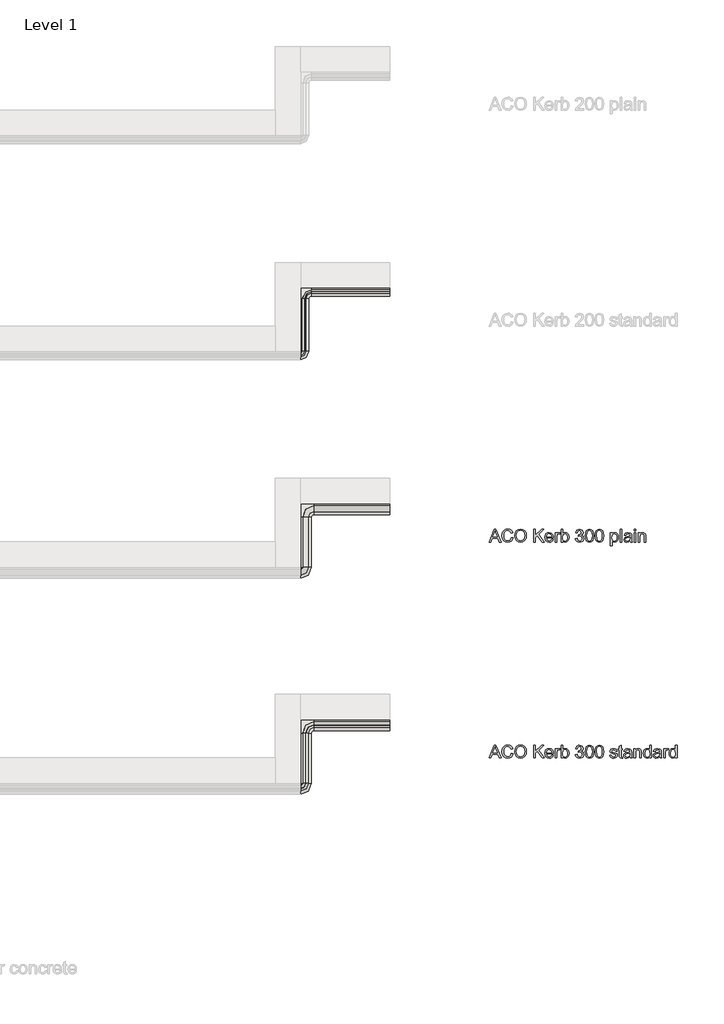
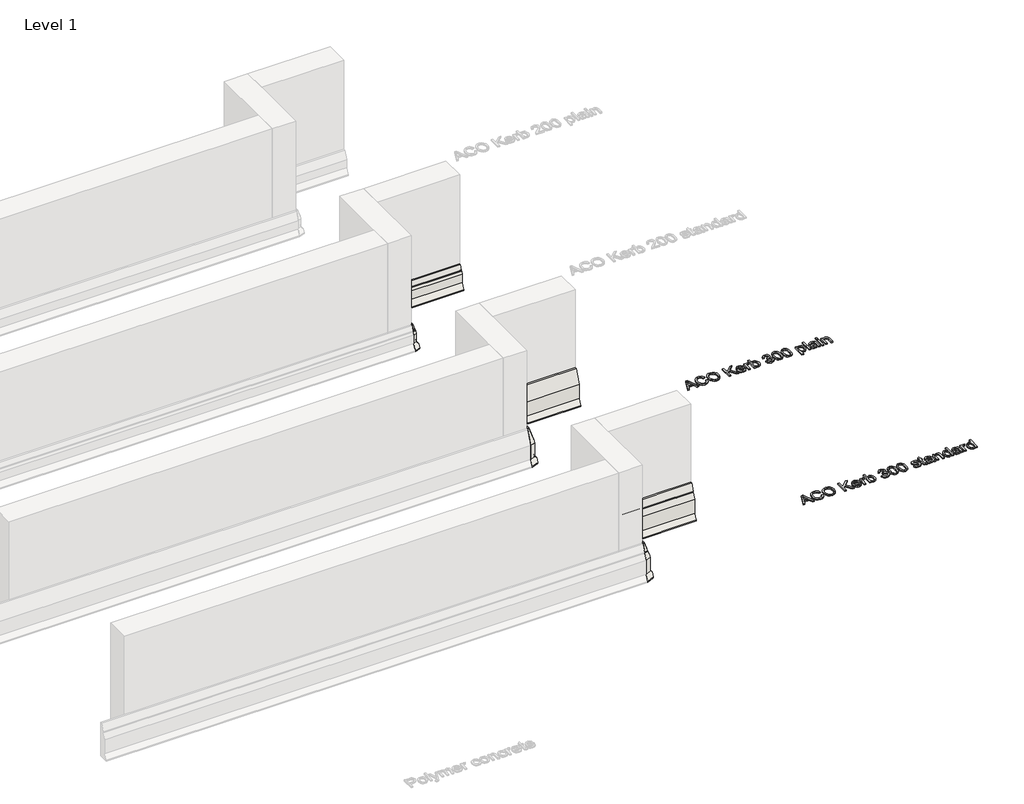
# One storey, part 2 of 4: 9 walls, 2 proxies.
"""IFC4 building model written with IfcOpenShell, lengths in millimetres."""

from ifc_helpers import new_model, si_unit, origin, origin_with_axes, place, context, project, spatial, polyline, outline, extrude, transform, mapped, element, save
from components import wall_ba41f0f9, wall_e165e4ae, wall_a8813c9a, wall_1ed60814, wall_682b4a6c, wall_ed18798e, wall_29dfddbd, wall_fa01e486, wall_d662d532

model = new_model("IFC4")

# Units and contexts
model_context = context("Model", 3, world=origin())
ifc_project = project(units=[si_unit("LENGTHUNIT", "METRE", prefix="MILLI")], contexts=[model_context])

# Site, building, storey
site = spatial("IfcSite", under=ifc_project)
building = spatial("IfcBuilding", under=site)
storey = spatial("IfcBuildingStorey", under=building, Name="Level 1", Elevation=0.0)

# Proxies
placement = place(None, origin())
element("IfcBuildingElementProxy", 1, Name="100mm ACO", ObjectType="100mm ACO", at=placement, inside=storey, context=model_context, shape_type="SweptSolid", body=[
    extrude(outline(polyline([(4878.14858, -11000.0), (4864.3464967, -11000.0), (4852.36733, -10970.3703704), (4809.9194133, -10970.3703704), (4798.4032096, -11000.0), (4784.6300615, -11000.0), (4823.4900152, -10900.0), (4837.6682559, -10900.0), (4878.14858, -11000.0)]), holes=[polyline([(4847.8534411, -10959.2592593), (4833.4292513, -10922.5983796), (4830.4633948, -10910.9375), (4825.80483, -10929.5138889), (4814.2596911, -10959.2592593), (4847.8534411, -10959.2592593)])]), origin_with_axes(), (0.0, 0.0, 1.0), 10.0),
    extrude(outline(polyline([(4972.1300615, -10968.1712963), (4966.216433, -10982.9969618), (4957.0982328, -10993.5040509), (4945.3107617, -10999.7649016), (4931.3893208, -11001.8518519), (4910.4836495, -10997.9962384), (4896.1462652, -10986.4293981), (4887.8563346, -10969.4372106), (4885.0930245, -10949.3055556), (4888.3373821, -10927.9188368), (4898.070455, -10911.7332176), (4912.9033543, -10901.5444155), (4931.4471911, -10898.1481481), (4944.7609932, -10899.9602141), (4955.9986958, -10905.396412), (4964.6684006, -10914.3265336), (4970.2782096, -10926.6203704), (4957.3152467, -10929.6296296), (4947.4628161, -10914.3663194), (4930.955293, -10909.2592593), (4916.7336495, -10911.968316), (4906.4182559, -10920.0954861), (4900.1465545, -10932.7799479), (4898.0559874, -10949.1608796), (4900.2695291, -10967.5238715), (4906.9101541, -10980.4832176), (4917.1098069, -10988.17636), (4930.0004319, -10990.7407407), (4940.5690083, -10989.1239873), (4948.9529782, -10984.2737269), (4955.1523416, -10976.1754919), (4959.1670985, -10964.8148148), (4972.1300615, -10968.1712963)])), origin_with_axes(), (0.0, 0.0, 1.0), 10.0),
    extrude(outline(polyline([(5031.4761263, -10898.1481481), (5049.9657096, -10901.7216435), (5064.7515893, -10912.4421296), (5074.4521101, -10929.0147569), (5077.685617, -10950.1446759), (5074.4340256, -10971.1841725), (5064.6792513, -10987.6591435), (5049.8752872, -10998.3036748), (5031.4761263, -11001.8518519), (5012.6031518, -10998.1734664), (4997.8245059, -10987.1383102), (4988.2758948, -10970.808015), (4985.0930245, -10951.244213), (4988.3192976, -10929.1630498), (4997.998117, -10912.3408565), (5012.8201657, -10901.6963252), (5031.4761263, -10898.1481481)]), holes=[polyline([(5031.3603856, -10990.7407407), (5044.8007791, -10988.0570023), (5055.4344596, -10980.005787), (5062.3716703, -10967.1730324), (5064.7226541, -10950.1446759), (5062.3680534, -10932.7365451), (5055.3042513, -10919.8640046), (5044.6741877, -10911.9104456), (5031.6208022, -10909.2592593), (5018.2744481, -10911.8561921), (5007.517793, -10919.6469907), (5000.4214388, -10932.8052662), (4998.0559874, -10951.5046296), (5000.3708022, -10967.3864294), (5007.3152467, -10979.9045139), (5017.956161, -10988.031684), (5031.3603856, -10990.7407407)])]), origin_with_axes(), (0.0, 0.0, 1.0), 10.0),
    extrude(outline(polyline([(5217.0374689, -11000.0), (5201.4992745, -11000.0), (5164.5779782, -10948.8136574), (5148.0559874, -10964.8148148), (5148.0559874, -11000.0), (5135.0930245, -11000.0), (5135.0930245, -10900.0), (5148.0559874, -10900.0), (5148.0559874, -10947.8009259), (5197.4194133, -10900.0), (5215.0120059, -10900.0), (5173.7504319, -10939.9305556), (5217.0374689, -11000.0)])), origin_with_axes(), (0.0, 0.0, 1.0), 10.0),
    extrude(outline(polyline([(5288.7967282, -10966.6666667), (5235.0930245, -10966.6666667), (5237.1655071, -10977.7922454), (5241.8783254, -10985.9375), (5248.6600094, -10990.9288194), (5256.9390893, -10992.5925926), (5268.6144365, -10988.9033565), (5275.8337652, -10977.7777778), (5288.7967282, -10979.2824074), (5284.4202814, -10988.9033565), (5277.4830708, -10996.0069444), (5268.2382791, -11000.390625), (5256.9390893, -11001.8518519), (5242.352139, -10999.3453414), (5231.345918, -10991.8258102), (5224.4340256, -10979.9660012), (5222.1300615, -10964.4386574), (5224.350837, -10948.900463), (5231.0131633, -10936.6030093), (5241.7119481, -10928.5951968), (5256.0420985, -10925.9259259), (5271.2620059, -10929.3836806), (5283.689668, -10941.1603009), (5287.5199631, -10951.6963252), (5288.7967282, -10966.6666667)]), holes=[polyline([(5275.8337652, -10957.4074074), (5273.7504319, -10947.2511574), (5269.0050615, -10940.3935185), (5255.7238115, -10935.1851852), (5247.8679087, -10936.7332176), (5241.5455708, -10941.3773148), (5235.0930245, -10957.4074074), (5275.8337652, -10957.4074074)])]), origin_with_axes(), (0.0, 0.0, 1.0), 10.0),
    extrude(outline(polyline([(5342.5004319, -10928.7615741), (5338.4495059, -10937.037037), (5329.9425615, -10935.1851852), (5324.1482907, -10936.8127894), (5319.9599226, -10941.6956019), (5316.5745059, -10959.9247685), (5316.5745059, -11000.0), (5303.611543, -11000.0), (5303.611543, -10927.7777778), (5314.7226541, -10927.7777778), (5314.7226541, -10938.4837963), (5321.6526309, -10929.0653935), (5330.0872374, -10925.9259259), (5342.5004319, -10928.7615741)])), origin_with_axes(), (0.0, 0.0, 1.0), 10.0),
    extrude(outline(polyline([(5363.0444133, -10934.9247685), (5371.4066819, -10928.1756366), (5382.4888578, -10925.9259259), (5394.9129029, -10928.4722222), (5404.5808717, -10936.1111111), (5410.7983196, -10947.8587963), (5412.8708022, -10962.7314815), (5410.5921564, -10979.4668692), (5403.7562189, -10991.7679398), (5393.8676194, -10999.3308738), (5382.4309874, -11001.8518519), (5371.4139157, -10999.3778935), (5363.1312189, -10991.9560185), (5362.8708022, -11000.0), (5349.9078393, -11000.0), (5349.9078393, -10900.0), (5362.8708022, -10900.0), (5363.0444133, -10934.9247685)]), holes=[polyline([(5381.2157096, -10992.5925926), (5388.6339677, -10990.7009549), (5394.627168, -10985.0260417), (5398.5876714, -10975.9295428), (5399.9078393, -10963.7731481), (5395.0467282, -10942.896412), (5389.2596911, -10937.1129919), (5381.6208022, -10935.1851852), (5373.9963809, -10937.1744792), (5368.0212652, -10943.1423611), (5362.8708022, -10963.28125), (5365.0120059, -10980.2372685), (5371.4645522, -10988.9322917), (5381.2157096, -10992.5925926)])]), origin_with_axes(), (0.0, 0.0, 1.0), 10.0),
    extrude(outline(polyline([(5510.3534411, -10946.3975694), (5518.6831576, -10949.6346933), (5524.6908254, -10955.4253472), (5529.5374689, -10970.9490741), (5527.012874, -10983.2573785), (5519.4390893, -10993.1568287), (5508.3496795, -10999.6780961), (5495.2782096, -11001.8518519), (5482.9988404, -10999.9348958), (5473.070455, -10994.1840278), (5466.1440951, -10985.2864583), (5462.8708022, -10973.9293981), (5475.8337652, -10972.2222222), (5482.6624689, -10987.5144676), (5495.7122374, -10992.5925926), (5503.7815372, -10991.0662616), (5510.5125846, -10986.4872685), (5515.0590256, -10979.6947338), (5516.5745059, -10971.5277778), (5515.153065, -10963.7695313), (5510.888742, -10957.4508102), (5504.3313057, -10953.2515914), (5496.0305245, -10951.8518519), (5486.9448763, -10953.7037037), (5488.3916356, -10942.5925926), (5496.2620059, -10942.1006944), (5502.7434874, -10939.6990741), (5508.6752004, -10934.2303241), (5511.0189504, -10925.4050926), (5506.2301772, -10913.4837963), (5495.1335337, -10909.2592593), (5483.4003161, -10914.0625), (5477.685617, -10927.7777778), (5464.7226541, -10925.5497685), (5468.560183, -10914.3627025), (5475.2695291, -10906.3802083), (5484.2141182, -10901.5950521), (5494.7573763, -10900.0), (5506.2229434, -10901.8916377), (5515.6196448, -10907.5665509), (5521.8913462, -10915.9758391), (5523.9819133, -10926.0706019), (5520.5747953, -10938.1365741), (5510.3534411, -10946.3975694)])), origin_with_axes(), (0.0, 0.0, 1.0), 10.0),
    extrude(outline(polyline([(5573.9529782, -10900.0), (5588.5489706, -10903.1864873), (5598.9746795, -10912.7459491), (5605.2301049, -10928.6783854), (5607.3152467, -10950.9837963), (5605.1595754, -10973.4555845), (5598.6925615, -10989.3084491), (5588.1963231, -10998.7160012), (5573.9529782, -11001.8518519), (5559.382304, -10998.6725984), (5548.9746795, -10989.134838), (5542.7301049, -10973.2385706), (5540.64858, -10950.9837963), (5542.8042513, -10928.515625), (5549.2712652, -10912.6157407), (5559.753036, -10903.1539352), (5573.9529782, -10900.0)]), holes=[polyline([(5573.9819133, -10992.5925926), (5582.8216124, -10990.1584201), (5589.2018208, -10982.8559028), (5593.064668, -10970.0195313), (5594.3522837, -10950.9837963), (5592.0953393, -10926.7650463), (5585.2811032, -10913.599537), (5573.8372374, -10909.2592593), (5565.0156228, -10911.7368345), (5558.689668, -10919.1695602), (5554.8810742, -10932.0782697), (5553.611543, -10950.9837963), (5555.9118902, -10975.0434028), (5562.7261263, -10988.2523148), (5573.9819133, -10992.5925926)])]), origin_with_axes(), (0.0, 0.0, 1.0), 10.0),
    extrude(outline(polyline([(5651.7307559, -10900.0), (5666.3267484, -10903.1864873), (5676.7524573, -10912.7459491), (5683.0078827, -10928.6783854), (5685.0930245, -10950.9837963), (5682.9373532, -10973.4555845), (5676.4703393, -10989.3084491), (5665.9741008, -10998.7160012), (5651.7307559, -11001.8518519), (5637.1600817, -10998.6725984), (5626.7524573, -10989.134838), (5620.5078827, -10973.2385706), (5618.4263578, -10950.9837963), (5620.5820291, -10928.515625), (5627.049043, -10912.6157407), (5637.5308138, -10903.1539352), (5651.7307559, -10900.0)]), holes=[polyline([(5651.7596911, -10992.5925926), (5660.5993902, -10990.1584201), (5666.9795985, -10982.8559028), (5670.8424458, -10970.0195313), (5672.1300615, -10950.9837963), (5669.873117, -10926.7650463), (5663.0588809, -10913.599537), (5651.6150152, -10909.2592593), (5642.7934006, -10911.7368345), (5636.4674458, -10919.1695602), (5632.658852, -10932.0782697), (5631.3893208, -10950.9837963), (5633.689668, -10975.0434028), (5640.5039041, -10988.2523148), (5651.7596911, -10992.5925926)])]), origin_with_axes(), (0.0, 0.0, 1.0), 10.0),
    extrude(outline(polyline([(5751.8898995, -10936.4872685), (5760.3462073, -10928.5662616), (5772.0143208, -10925.9259259), (5784.3407096, -10928.515625), (5793.77358, -10936.2847222), (5799.7631633, -10948.2132523), (5801.7596911, -10963.28125), (5799.5027467, -10979.1702836), (5792.7319133, -10991.4207176), (5782.6769365, -10999.2440683), (5770.5675615, -11001.8518519), (5760.1942976, -10999.7251157), (5752.1069133, -10993.3449074), (5751.7596911, -11027.7777778), (5738.7967282, -11027.7777778), (5738.7967282, -10927.7777778), (5751.7596911, -10927.7777778), (5751.8898995, -10936.4872685)]), holes=[polyline([(5769.1497374, -10992.5925926), (5776.9224515, -10990.766059), (5783.226705, -10985.2864583), (5787.4042224, -10976.1899595), (5788.7967282, -10963.5127315), (5787.4548589, -10951.4359086), (5783.4292513, -10942.5202546), (5777.3130765, -10937.0189525), (5769.6995059, -10935.1851852), (5761.8182849, -10937.2287326), (5755.4778624, -10943.359375), (5751.3003451, -10952.7452257), (5749.9078393, -10964.5543981), (5751.2424747, -10976.66739), (5755.2463809, -10985.4600694), (5761.3914909, -10990.8094618), (5769.1497374, -10992.5925926)])]), origin_with_axes(), (0.0, 0.0, 1.0), 10.0),
    extrude(outline(polyline([(5829.5374689, -11000.0), (5816.5745059, -11000.0), (5816.5745059, -10900.0), (5829.5374689, -10900.0), (5829.5374689, -11000.0)])), origin_with_axes(), (0.0, 0.0, 1.0), 10.0),
    extrude(outline(polyline([(5911.0189504, -11000.0), (5898.0559874, -11000.0), (5894.3522837, -10991.2615741), (5881.8595175, -10999.2042824), (5868.3974226, -11001.8518519), (5858.4111668, -11000.4050926), (5850.7903624, -10996.0648148), (5845.9618034, -10989.3518519), (5844.3522837, -10980.787037), (5845.9292513, -10972.479022), (5850.6601541, -10965.7841435), (5859.2900731, -10960.8904803), (5872.5640893, -10957.9861111), (5883.9066819, -10956.25), (5894.3522837, -10953.7037037), (5894.0195291, -10945.6741898), (5892.0808717, -10940.7986111), (5886.9159411, -10936.7332176), (5877.3383948, -10935.1851852), (5865.257955, -10938.3246528), (5859.1670985, -10950.0), (5846.2041356, -10948.4085648), (5849.7595464, -10938.599537), (5856.4327235, -10931.568287), (5866.216433, -10927.3365162), (5879.1034411, -10925.9259259), (5898.3598069, -10929.7887731), (5905.9118902, -10939.1059028), (5907.3152467, -10953.1539352), (5907.3152467, -10969.6759259), (5907.8650152, -10989.9305556), (5911.0189504, -11000.0)]), holes=[polyline([(5894.3522837, -10967.5925926), (5894.3522837, -10962.962963), (5871.0739272, -10968.287037), (5860.7549168, -10972.3451968), (5857.3152467, -10980.5844907), (5861.0189504, -10989.2071759), (5871.6960337, -10992.5925926), (5887.5091124, -10986.9212963), (5892.6414909, -10979.2534722), (5894.3522837, -10967.5925926)])]), origin_with_axes(), (0.0, 0.0, 1.0), 10.0),
    extrude(outline(polyline([(5938.7967282, -10912.962963), (5925.8337652, -10912.962963), (5925.8337652, -10900.0), (5938.7967282, -10900.0), (5938.7967282, -10912.962963)])), origin_with_axes(), (0.0, 0.0, 1.0), 10.0),
    extrude(outline(polyline([(5938.7967282, -11000.0), (5925.8337652, -11000.0), (5925.8337652, -10927.7777778), (5938.7967282, -10927.7777778), (5938.7967282, -11000.0)])), origin_with_axes(), (0.0, 0.0, 1.0), 10.0),
    extrude(outline(polyline([(6016.5745059, -11000.0), (6003.611543, -11000.0), (6003.611543, -10955.0347222), (5999.7486958, -10939.4386574), (5988.9992745, -10935.1851852), (5978.9732328, -10937.9050926), (5972.2602698, -10945.5729167), (5970.2782096, -10959.5775463), (5970.2782096, -11000.0), (5957.3152467, -11000.0), (5957.3152467, -10927.7777778), (5968.4263578, -10927.7777778), (5968.4263578, -10937.818287), (5978.3221911, -10928.8917824), (5991.5745059, -10925.9259259), (6002.9460337, -10927.9803241), (6011.74233, -10934.1290509), (6015.7498532, -10942.8674769), (6016.5745059, -10955.4108796), (6016.5745059, -11000.0)])), origin_with_axes(), (0.0, 0.0, 1.0), 10.0),
])
element("IfcBuildingElementProxy", 2, Name="100mm ACO", ObjectType="100mm ACO", at=placement, inside=storey, context=model_context, shape_type="SweptSolid", body=[
    extrude(outline(polyline([(4878.14858, -12700.0), (4864.3464967, -12700.0), (4852.36733, -12670.3703704), (4809.9194133, -12670.3703704), (4798.4032096, -12700.0), (4784.6300615, -12700.0), (4823.4900152, -12600.0), (4837.6682559, -12600.0), (4878.14858, -12700.0)]), holes=[polyline([(4847.8534411, -12659.2592593), (4833.4292513, -12622.5983796), (4830.4633948, -12610.9375), (4825.80483, -12629.5138889), (4814.2596911, -12659.2592593), (4847.8534411, -12659.2592593)])]), origin_with_axes(), (0.0, 0.0, 1.0), 10.0),
    extrude(outline(polyline([(4972.1300615, -12668.1712963), (4966.216433, -12682.9969618), (4957.0982328, -12693.5040509), (4945.3107617, -12699.7649016), (4931.3893208, -12701.8518519), (4910.4836495, -12697.9962384), (4896.1462652, -12686.4293981), (4887.8563346, -12669.4372106), (4885.0930245, -12649.3055556), (4888.3373821, -12627.9188368), (4898.070455, -12611.7332176), (4912.9033543, -12601.5444155), (4931.4471911, -12598.1481481), (4944.7609932, -12599.9602141), (4955.9986958, -12605.396412), (4964.6684006, -12614.3265336), (4970.2782096, -12626.6203704), (4957.3152467, -12629.6296296), (4947.4628161, -12614.3663194), (4930.955293, -12609.2592593), (4916.7336495, -12611.968316), (4906.4182559, -12620.0954861), (4900.1465545, -12632.7799479), (4898.0559874, -12649.1608796), (4900.2695291, -12667.5238715), (4906.9101541, -12680.4832176), (4917.1098069, -12688.17636), (4930.0004319, -12690.7407407), (4940.5690083, -12689.1239873), (4948.9529782, -12684.2737269), (4955.1523416, -12676.1754919), (4959.1670985, -12664.8148148), (4972.1300615, -12668.1712963)])), origin_with_axes(), (0.0, 0.0, 1.0), 10.0),
    extrude(outline(polyline([(5031.4761263, -12598.1481481), (5049.9657096, -12601.7216435), (5064.7515893, -12612.4421296), (5074.4521101, -12629.0147569), (5077.685617, -12650.1446759), (5074.4340256, -12671.1841725), (5064.6792513, -12687.6591435), (5049.8752872, -12698.3036748), (5031.4761263, -12701.8518519), (5012.6031518, -12698.1734664), (4997.8245059, -12687.1383102), (4988.2758948, -12670.808015), (4985.0930245, -12651.244213), (4988.3192976, -12629.1630498), (4997.998117, -12612.3408565), (5012.8201657, -12601.6963252), (5031.4761263, -12598.1481481)]), holes=[polyline([(5031.3603856, -12690.7407407), (5044.8007791, -12688.0570023), (5055.4344596, -12680.005787), (5062.3716703, -12667.1730324), (5064.7226541, -12650.1446759), (5062.3680534, -12632.7365451), (5055.3042513, -12619.8640046), (5044.6741877, -12611.9104456), (5031.6208022, -12609.2592593), (5018.2744481, -12611.8561921), (5007.517793, -12619.6469907), (5000.4214388, -12632.8052662), (4998.0559874, -12651.5046296), (5000.3708022, -12667.3864294), (5007.3152467, -12679.9045139), (5017.956161, -12688.031684), (5031.3603856, -12690.7407407)])]), origin_with_axes(), (0.0, 0.0, 1.0), 10.0),
    extrude(outline(polyline([(5217.0374689, -12700.0), (5201.4992745, -12700.0), (5164.5779782, -12648.8136574), (5148.0559874, -12664.8148148), (5148.0559874, -12700.0), (5135.0930245, -12700.0), (5135.0930245, -12600.0), (5148.0559874, -12600.0), (5148.0559874, -12647.8009259), (5197.4194133, -12600.0), (5215.0120059, -12600.0), (5173.7504319, -12639.9305556), (5217.0374689, -12700.0)])), origin_with_axes(), (0.0, 0.0, 1.0), 10.0),
    extrude(outline(polyline([(5288.7967282, -12666.6666667), (5235.0930245, -12666.6666667), (5237.1655071, -12677.7922454), (5241.8783254, -12685.9375), (5248.6600094, -12690.9288194), (5256.9390893, -12692.5925926), (5268.6144365, -12688.9033565), (5275.8337652, -12677.7777778), (5288.7967282, -12679.2824074), (5284.4202814, -12688.9033565), (5277.4830708, -12696.0069444), (5268.2382791, -12700.390625), (5256.9390893, -12701.8518519), (5242.352139, -12699.3453414), (5231.345918, -12691.8258102), (5224.4340256, -12679.9660012), (5222.1300615, -12664.4386574), (5224.350837, -12648.900463), (5231.0131633, -12636.6030093), (5241.7119481, -12628.5951968), (5256.0420985, -12625.9259259), (5271.2620059, -12629.3836806), (5283.689668, -12641.1603009), (5287.5199631, -12651.6963252), (5288.7967282, -12666.6666667)]), holes=[polyline([(5275.8337652, -12657.4074074), (5273.7504319, -12647.2511574), (5269.0050615, -12640.3935185), (5255.7238115, -12635.1851852), (5247.8679087, -12636.7332176), (5241.5455708, -12641.3773148), (5235.0930245, -12657.4074074), (5275.8337652, -12657.4074074)])]), origin_with_axes(), (0.0, 0.0, 1.0), 10.0),
    extrude(outline(polyline([(5342.5004319, -12628.7615741), (5338.4495059, -12637.037037), (5329.9425615, -12635.1851852), (5324.1482907, -12636.8127894), (5319.9599226, -12641.6956019), (5316.5745059, -12659.9247685), (5316.5745059, -12700.0), (5303.611543, -12700.0), (5303.611543, -12627.7777778), (5314.7226541, -12627.7777778), (5314.7226541, -12638.4837963), (5321.6526309, -12629.0653935), (5330.0872374, -12625.9259259), (5342.5004319, -12628.7615741)])), origin_with_axes(), (0.0, 0.0, 1.0), 10.0),
    extrude(outline(polyline([(5363.0444133, -12634.9247685), (5371.4066819, -12628.1756366), (5382.4888578, -12625.9259259), (5394.9129029, -12628.4722222), (5404.5808717, -12636.1111111), (5410.7983196, -12647.8587963), (5412.8708022, -12662.7314815), (5410.5921564, -12679.4668692), (5403.7562189, -12691.7679398), (5393.8676194, -12699.3308738), (5382.4309874, -12701.8518519), (5371.4139157, -12699.3778935), (5363.1312189, -12691.9560185), (5362.8708022, -12700.0), (5349.9078393, -12700.0), (5349.9078393, -12600.0), (5362.8708022, -12600.0), (5363.0444133, -12634.9247685)]), holes=[polyline([(5381.2157096, -12692.5925926), (5388.6339677, -12690.7009549), (5394.627168, -12685.0260417), (5398.5876714, -12675.9295428), (5399.9078393, -12663.7731481), (5395.0467282, -12642.896412), (5389.2596911, -12637.1129919), (5381.6208022, -12635.1851852), (5373.9963809, -12637.1744792), (5368.0212652, -12643.1423611), (5362.8708022, -12663.28125), (5365.0120059, -12680.2372685), (5371.4645522, -12688.9322917), (5381.2157096, -12692.5925926)])]), origin_with_axes(), (0.0, 0.0, 1.0), 10.0),
    extrude(outline(polyline([(5510.3534411, -12646.3975694), (5518.6831576, -12649.6346933), (5524.6908254, -12655.4253472), (5529.5374689, -12670.9490741), (5527.012874, -12683.2573785), (5519.4390893, -12693.1568287), (5508.3496795, -12699.6780961), (5495.2782096, -12701.8518519), (5482.9988404, -12699.9348958), (5473.070455, -12694.1840278), (5466.1440951, -12685.2864583), (5462.8708022, -12673.9293981), (5475.8337652, -12672.2222222), (5482.6624689, -12687.5144676), (5495.7122374, -12692.5925926), (5503.7815372, -12691.0662616), (5510.5125846, -12686.4872685), (5515.0590256, -12679.6947338), (5516.5745059, -12671.5277778), (5515.153065, -12663.7695313), (5510.888742, -12657.4508102), (5504.3313057, -12653.2515914), (5496.0305245, -12651.8518519), (5486.9448763, -12653.7037037), (5488.3916356, -12642.5925926), (5496.2620059, -12642.1006944), (5502.7434874, -12639.6990741), (5508.6752004, -12634.2303241), (5511.0189504, -12625.4050926), (5506.2301772, -12613.4837963), (5495.1335337, -12609.2592593), (5483.4003161, -12614.0625), (5477.685617, -12627.7777778), (5464.7226541, -12625.5497685), (5468.560183, -12614.3627025), (5475.2695291, -12606.3802083), (5484.2141182, -12601.5950521), (5494.7573763, -12600.0), (5506.2229434, -12601.8916377), (5515.6196448, -12607.5665509), (5521.8913462, -12615.9758391), (5523.9819133, -12626.0706019), (5520.5747953, -12638.1365741), (5510.3534411, -12646.3975694)])), origin_with_axes(), (0.0, 0.0, 1.0), 10.0),
    extrude(outline(polyline([(5573.9529782, -12600.0), (5588.5489706, -12603.1864873), (5598.9746795, -12612.7459491), (5605.2301049, -12628.6783854), (5607.3152467, -12650.9837963), (5605.1595754, -12673.4555845), (5598.6925615, -12689.3084491), (5588.1963231, -12698.7160012), (5573.9529782, -12701.8518519), (5559.382304, -12698.6725984), (5548.9746795, -12689.134838), (5542.7301049, -12673.2385706), (5540.64858, -12650.9837963), (5542.8042513, -12628.515625), (5549.2712652, -12612.6157407), (5559.753036, -12603.1539352), (5573.9529782, -12600.0)]), holes=[polyline([(5573.9819133, -12692.5925926), (5582.8216124, -12690.1584201), (5589.2018208, -12682.8559028), (5593.064668, -12670.0195313), (5594.3522837, -12650.9837963), (5592.0953393, -12626.7650463), (5585.2811032, -12613.599537), (5573.8372374, -12609.2592593), (5565.0156228, -12611.7368345), (5558.689668, -12619.1695602), (5554.8810742, -12632.0782697), (5553.611543, -12650.9837963), (5555.9118902, -12675.0434028), (5562.7261263, -12688.2523148), (5573.9819133, -12692.5925926)])]), origin_with_axes(), (0.0, 0.0, 1.0), 10.0),
    extrude(outline(polyline([(5651.7307559, -12600.0), (5666.3267484, -12603.1864873), (5676.7524573, -12612.7459491), (5683.0078827, -12628.6783854), (5685.0930245, -12650.9837963), (5682.9373532, -12673.4555845), (5676.4703393, -12689.3084491), (5665.9741008, -12698.7160012), (5651.7307559, -12701.8518519), (5637.1600817, -12698.6725984), (5626.7524573, -12689.134838), (5620.5078827, -12673.2385706), (5618.4263578, -12650.9837963), (5620.5820291, -12628.515625), (5627.049043, -12612.6157407), (5637.5308138, -12603.1539352), (5651.7307559, -12600.0)]), holes=[polyline([(5651.7596911, -12692.5925926), (5660.5993902, -12690.1584201), (5666.9795985, -12682.8559028), (5670.8424458, -12670.0195313), (5672.1300615, -12650.9837963), (5669.873117, -12626.7650463), (5663.0588809, -12613.599537), (5651.6150152, -12609.2592593), (5642.7934006, -12611.7368345), (5636.4674458, -12619.1695602), (5632.658852, -12632.0782697), (5631.3893208, -12650.9837963), (5633.689668, -12675.0434028), (5640.5039041, -12688.2523148), (5651.7596911, -12692.5925926)])]), origin_with_axes(), (0.0, 0.0, 1.0), 10.0),
    extrude(outline(polyline([(5779.5374689, -12648.1481481), (5774.7486958, -12638.4259259), (5763.6809874, -12635.1851852), (5752.36733, -12637.962963), (5748.0559874, -12646.0358796), (5750.9061032, -12653.1828704), (5764.3464967, -12657.0601852), (5782.0692976, -12661.2268519), (5791.111543, -12667.5491898), (5794.3522837, -12678.8773148), (5792.3412883, -12687.8074363), (5786.3083022, -12695.2112269), (5776.9116008, -12700.1916956), (5764.8094596, -12701.8518519), (5752.3347779, -12700.4557292), (5742.919992, -12696.2673611), (5736.5578682, -12689.2939815), (5733.2411726, -12679.5428241), (5746.2041356, -12677.7777778), (5751.8030939, -12688.9033565), (5764.8094596, -12692.5925926), (5777.1069133, -12688.7586806), (5781.3893208, -12679.4270833), (5779.4651309, -12673.4519676), (5774.6618902, -12670.0810185), (5761.0768208, -12667.1875), (5740.1422143, -12659.375), (5735.0930245, -12646.7881944), (5736.9629608, -12638.5018808), (5742.5727698, -12631.8142361), (5751.3437478, -12627.3980035), (5762.6971911, -12625.9259259), (5774.6293381, -12627.2135417), (5783.5739272, -12631.0763889), (5789.5309585, -12637.5072338), (5792.5004319, -12646.4988426), (5779.5374689, -12648.1481481)])), origin_with_axes(), (0.0, 0.0, 1.0), 10.0),
    extrude(outline(polyline([(5835.0930245, -12701.0127315), (5826.0073763, -12701.8518519), (5814.4188346, -12698.9728009), (5809.9772837, -12691.6666667), (5809.1670985, -12679.3402778), (5809.1670985, -12637.037037), (5799.9078393, -12637.037037), (5799.9078393, -12627.7777778), (5809.1670985, -12627.7777778), (5809.1670985, -12609.4328704), (5822.1300615, -12601.8518519), (5822.1300615, -12627.7777778), (5833.2411726, -12627.7777778), (5833.2411726, -12637.037037), (5822.1300615, -12637.037037), (5822.1300615, -12681.9444444), (5823.1717282, -12690.162037), (5828.466867, -12692.5925926), (5833.5015893, -12692.5925926), (5835.0930245, -12701.0127315)])), origin_with_axes(), (0.0, 0.0, 1.0), 10.0),
    extrude(outline(polyline([(5909.1670985, -12700.0), (5896.2041356, -12700.0), (5892.5004319, -12691.2615741), (5880.0076657, -12699.2042824), (5866.5455708, -12701.8518519), (5856.559315, -12700.4050926), (5848.9385106, -12696.0648148), (5844.1099515, -12689.3518519), (5842.5004319, -12680.787037), (5844.0773995, -12672.479022), (5848.8083022, -12665.7841435), (5857.4382212, -12660.8904803), (5870.7122374, -12657.9861111), (5882.05483, -12656.25), (5892.5004319, -12653.7037037), (5892.1676772, -12645.6741898), (5890.2290198, -12640.7986111), (5885.0640893, -12636.7332176), (5875.486543, -12635.1851852), (5863.4061032, -12638.3246528), (5857.3152467, -12650.0), (5844.3522837, -12648.4085648), (5847.9076946, -12638.599537), (5854.5808717, -12631.568287), (5864.3645812, -12627.3365162), (5877.2515893, -12625.9259259), (5896.507955, -12629.7887731), (5904.0600383, -12639.1059028), (5905.4633948, -12653.1539352), (5905.4633948, -12669.6759259), (5906.0131633, -12689.9305556), (5909.1670985, -12700.0)]), holes=[polyline([(5892.5004319, -12667.5925926), (5892.5004319, -12662.962963), (5869.2220754, -12668.287037), (5858.903065, -12672.3451968), (5855.4633948, -12680.5844907), (5859.1670985, -12689.2071759), (5869.8441819, -12692.5925926), (5885.6572606, -12686.9212963), (5890.789639, -12679.2534722), (5892.5004319, -12667.5925926)])]), origin_with_axes(), (0.0, 0.0, 1.0), 10.0),
    extrude(outline(polyline([(5983.2411726, -12700.0), (5970.2782096, -12700.0), (5970.2782096, -12655.0347222), (5966.4153624, -12639.4386574), (5955.6659411, -12635.1851852), (5945.6398995, -12637.9050926), (5938.9269365, -12645.5729167), (5936.9448763, -12659.5775463), (5936.9448763, -12700.0), (5923.9819133, -12700.0), (5923.9819133, -12627.7777778), (5935.0930245, -12627.7777778), (5935.0930245, -12637.818287), (5944.9888578, -12628.8917824), (5958.2411726, -12625.9259259), (5969.6127004, -12627.9803241), (5978.4089967, -12634.1290509), (5982.4165198, -12642.8674769), (5983.2411726, -12655.4108796), (5983.2411726, -12700.0)])), origin_with_axes(), (0.0, 0.0, 1.0), 10.0),
    extrude(outline(polyline([(6061.0189504, -12700.0), (6048.0559874, -12700.0), (6048.0559874, -12691.8402778), (6039.7009527, -12699.3489583), (6028.3221911, -12701.8518519), (6016.4551483, -12699.2115162), (6006.7220754, -12691.2905093), (6000.2225094, -12679.1594329), (5998.0559874, -12663.8888889), (6000.132087, -12648.1481481), (6006.3603856, -12636.1111111), (6015.9958022, -12628.4722222), (6028.2932559, -12625.9259259), (6039.5779782, -12628.2118056), (6047.7955708, -12635.0694444), (6048.0559874, -12600.0), (6061.0189504, -12600.0), (6061.0189504, -12700.0)]), holes=[polyline([(6029.8268208, -12692.5925926), (6036.8797721, -12690.8854167), (6042.7608485, -12685.7638889), (6046.7322027, -12677.1701389), (6048.0559874, -12665.0462963), (6043.2093439, -12643.287037), (6037.310183, -12637.2106481), (6029.3059874, -12635.1851852), (6021.3596622, -12637.1672454), (6015.6341124, -12643.1134259), (6011.0189504, -12663.9178241), (6013.5073763, -12679.6730324), (6020.4518208, -12689.3518519), (6029.8268208, -12692.5925926)])]), origin_with_axes(), (0.0, 0.0, 1.0), 10.0),
    extrude(outline(polyline([(6142.5004319, -12700.0), (6129.5374689, -12700.0), (6125.8337652, -12691.2615741), (6113.340999, -12699.2042824), (6099.8789041, -12701.8518519), (6089.8926483, -12700.4050926), (6082.2718439, -12696.0648148), (6077.4432849, -12689.3518519), (6075.8337652, -12680.787037), (6077.4107328, -12672.479022), (6082.1416356, -12665.7841435), (6090.7715545, -12660.8904803), (6104.0455708, -12657.9861111), (6115.3881633, -12656.25), (6125.8337652, -12653.7037037), (6125.5010106, -12645.6741898), (6123.5623532, -12640.7986111), (6118.3974226, -12636.7332176), (6108.8198763, -12635.1851852), (6096.7394365, -12638.3246528), (6090.64858, -12650.0), (6077.685617, -12648.4085648), (6081.2410279, -12638.599537), (6087.914205, -12631.568287), (6097.6979145, -12627.3365162), (6110.5849226, -12625.9259259), (6129.8412883, -12629.7887731), (6137.3933717, -12639.1059028), (6138.7967282, -12653.1539352), (6138.7967282, -12669.6759259), (6139.3464967, -12689.9305556), (6142.5004319, -12700.0)]), holes=[polyline([(6125.8337652, -12667.5925926), (6125.8337652, -12662.962963), (6102.5554087, -12668.287037), (6092.2363983, -12672.3451968), (6088.7967282, -12680.5844907), (6092.5004319, -12689.2071759), (6103.1775152, -12692.5925926), (6118.9905939, -12686.9212963), (6124.1229724, -12679.2534722), (6125.8337652, -12667.5925926)])]), origin_with_axes(), (0.0, 0.0, 1.0), 10.0),
    extrude(outline(polyline([(6196.2041356, -12628.7615741), (6192.1532096, -12637.037037), (6183.6462652, -12635.1851852), (6177.8519944, -12636.8127894), (6173.6636263, -12641.6956019), (6170.2782096, -12659.9247685), (6170.2782096, -12700.0), (6157.3152467, -12700.0), (6157.3152467, -12627.7777778), (6168.4263578, -12627.7777778), (6168.4263578, -12638.4837963), (6175.3563346, -12629.0653935), (6183.7909411, -12625.9259259), (6196.2041356, -12628.7615741)])), origin_with_axes(), (0.0, 0.0, 1.0), 10.0),
    extrude(outline(polyline([(6262.8708022, -12700.0), (6249.9078393, -12700.0), (6249.9078393, -12691.8402778), (6241.5528045, -12699.3489583), (6230.174043, -12701.8518519), (6218.3070002, -12699.2115162), (6208.5739272, -12691.2905093), (6202.0743613, -12679.1594329), (6199.9078393, -12663.8888889), (6201.9839388, -12648.1481481), (6208.2122374, -12636.1111111), (6217.8476541, -12628.4722222), (6230.1451078, -12625.9259259), (6241.42983, -12628.2118056), (6249.6474226, -12635.0694444), (6249.9078393, -12600.0), (6262.8708022, -12600.0), (6262.8708022, -12700.0)]), holes=[polyline([(6231.6786726, -12692.5925926), (6238.731624, -12690.8854167), (6244.6127004, -12685.7638889), (6248.5840545, -12677.1701389), (6249.9078393, -12665.0462963), (6245.0611958, -12643.287037), (6239.1620349, -12637.2106481), (6231.1578393, -12635.1851852), (6223.211514, -12637.1672454), (6217.4859643, -12643.1134259), (6212.8708022, -12663.9178241), (6215.3592282, -12679.6730324), (6222.3036726, -12689.3518519), (6231.6786726, -12692.5925926)])]), origin_with_axes(), (0.0, 0.0, 1.0), 10.0),
])

# Walls
wall_shape = wall_ba41f0f9(model_context)
element("IfcWall", 3, ObjectType="GM_PC_UN_ACO kerb PB inside corner_ACO : PB H300 plain", at=placement, inside=storey, context=model_context, shape_type="MappedRepresentation", body=[
    mapped(wall_shape, transform((3300.0, -10700.0, 0.0), x_axis=(0.0, 1.0, 0.0), y_axis=(-1.0, 0.0, 0.0), z_axis=(0.0, 0.0, 1.0))),
])
wall_2_shape = wall_e165e4ae(model_context)
element("IfcWall", 4, ObjectType="GM_PC_UN_ACO kerb PB inside corner_ACO : PB H200 standard", at=placement, inside=storey, context=model_context, shape_type="MappedRepresentation", body=[
    mapped(wall_2_shape, transform((3300.0, -9000.0, 0.0), x_axis=(0.0, 1.0, 0.0), y_axis=(-1.0, 0.0, 0.0), z_axis=(0.0, 0.0, 1.0))),
])
wall_3_shape = wall_a8813c9a(model_context)
element("IfcWall", 5, ObjectType="GM_PC_UN_ACO kerb PB inside corner_ACO : PB H300 standard", at=placement, inside=storey, context=model_context, shape_type="MappedRepresentation", body=[
    mapped(wall_3_shape, transform((3300.0, -12400.0, 0.0), x_axis=(0.0, 1.0, 0.0), y_axis=(-1.0, 0.0, 0.0), z_axis=(0.0, 0.0, 1.0))),
])
wall_4_shape = wall_1ed60814(model_context)
element("IfcWall", 6, ObjectType="GM_PC_UN_ACO kerb PB outside corner_ACO : PB H200 standard", at=placement, inside=storey, context=model_context, shape_type="MappedRepresentation", body=[
    mapped(wall_4_shape, transform((3300.0, -9500.0, 0.0), x_axis=(0.0, 1.0000000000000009, 0.0), y_axis=(-1.0000000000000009, 0.0, 0.0), z_axis=(0.0, 0.0, 1.0))),
])
wall_5_shape = wall_682b4a6c(model_context)
element("IfcWall", 7, ObjectType="GM_PC_UN_ACO kerb PB outside corner_ACO : PB H300 plain", at=placement, inside=storey, context=model_context, shape_type="MappedRepresentation", body=[
    mapped(wall_5_shape, transform((3300.0, -11200.0, 0.0), x_axis=(0.0, 1.0000000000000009, 0.0), y_axis=(-1.0000000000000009, 0.0, 0.0), z_axis=(0.0, 0.0, 1.0))),
])
wall_6_shape = wall_ed18798e(model_context)
element("IfcWall", 8, ObjectType="GM_PC_UN_ACO kerb PB outside corner_ACO : PB H300 standard", at=placement, inside=storey, context=model_context, shape_type="MappedRepresentation", body=[
    mapped(wall_6_shape, transform((3300.0, -12900.0, 0.0), x_axis=(0.0, 1.0000000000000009, 0.0), y_axis=(-1.0000000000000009, 0.0, 0.0), z_axis=(0.0, 0.0, 1.0))),
])
wall_7_shape = wall_29dfddbd(model_context)
element("IfcWall", 9, ObjectType="GM_PC_WPB_ACO kerb PB straight_ACO : PB H200 standard", at=placement, inside=storey, context=model_context, shape_type="MappedRepresentation", body=[
    mapped(wall_7_shape, transform((3385.0, -9000.0, 0.0), x_axis=(1.0, 0.0, 0.0), y_axis=(0.0, 1.0, 0.0), z_axis=(0.0, 0.0, 1.0))),
])
wall_8_shape = wall_fa01e486(model_context)
element("IfcWall", 10, ObjectType="GM_PC_WPB_ACO kerb PB straight_ACO : PB H300 plain", at=placement, inside=storey, context=model_context, shape_type="MappedRepresentation", body=[
    mapped(wall_8_shape, transform((3405.0, -10700.0, 0.0), x_axis=(1.0, 0.0, 0.0), y_axis=(0.0, 1.0, 0.0), z_axis=(0.0, 0.0, 1.0))),
])
wall_9_shape = wall_d662d532(model_context)
element("IfcWall", 11, ObjectType="GM_PC_WPB_ACO kerb PB straight_ACO : PB H300 standard", at=placement, inside=storey, context=model_context, shape_type="MappedRepresentation", body=[
    mapped(wall_9_shape, transform((3405.0, -12400.0, 0.0), x_axis=(1.0, 0.0, 0.0), y_axis=(0.0, 1.0, 0.0), z_axis=(0.0, 0.0, 1.0))),
])

save(model, "model.ifc")
